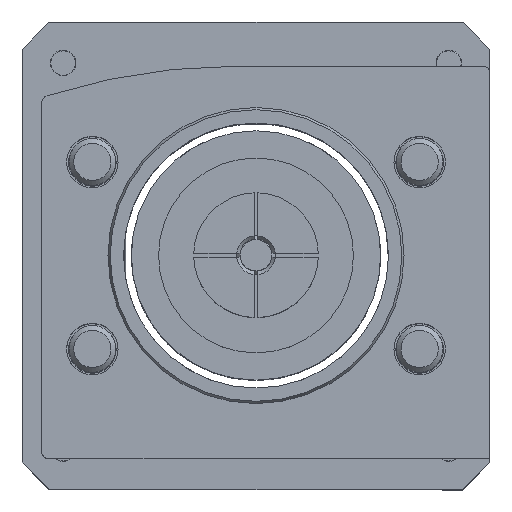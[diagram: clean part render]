
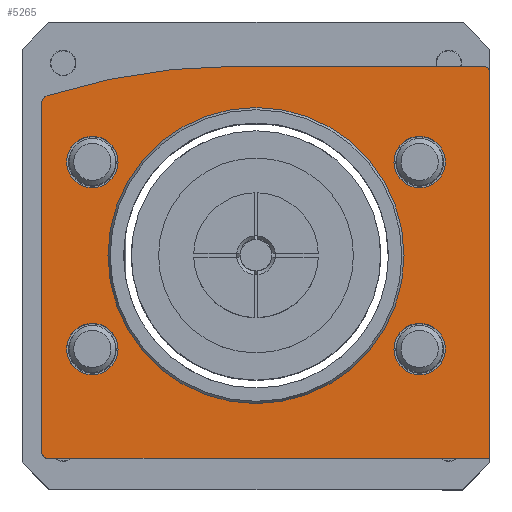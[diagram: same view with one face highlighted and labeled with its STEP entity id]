
A CAD part, top view. The second image highlights one B-rep face of the part: STEP entity #5265.
In plain terms, the highlighted planar face has unit normal (0, 0, 1).
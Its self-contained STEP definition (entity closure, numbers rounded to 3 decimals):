
#178=LINE('',#8017,#531);
#184=LINE('',#8037,#537);
#188=LINE('',#8049,#541);
#192=LINE('',#8061,#545);
#531=VECTOR('',#6315,44.766);
#537=VECTOR('',#6335,31.7);
#541=VECTOR('',#6347,49.3);
#545=VECTOR('',#6359,56.5);
#891=PLANE('',#5625);
#1109=FACE_BOUND('',#1593,.T.);
#1110=FACE_BOUND('',#1594,.T.);
#1111=FACE_BOUND('',#1595,.T.);
#1112=FACE_BOUND('',#1596,.T.);
#1113=FACE_BOUND('',#1597,.T.);
#1251=FACE_OUTER_BOUND('',#1592,.T.);
#1592=EDGE_LOOP('',(#3696,#3697,#3698,#3699,#3700,#3701,#3702,#3703,#3704));
#1593=EDGE_LOOP('',(#3705));
#1594=EDGE_LOOP('',(#3706));
#1595=EDGE_LOOP('',(#3707));
#1596=EDGE_LOOP('',(#3708));
#1597=EDGE_LOOP('',(#3709));
#2018=CIRCLE('',#5580,3.3);
#2020=CIRCLE('',#5583,3.3);
#2022=CIRCLE('',#5586,3.3);
#2024=CIRCLE('',#5589,3.3);
#2028=CIRCLE('',#5595,19.);
#2033=CIRCLE('',#5607,1.);
#2035=CIRCLE('',#5610,80.);
#2037=CIRCLE('',#5614,0.8);
#2039=CIRCLE('',#5618,0.2);
#2041=CIRCLE('',#5622,0.8);
#2349=VERTEX_POINT('',#7974);
#2351=VERTEX_POINT('',#7979);
#2353=VERTEX_POINT('',#7984);
#2355=VERTEX_POINT('',#7989);
#2359=VERTEX_POINT('',#7999);
#2364=VERTEX_POINT('',#8015);
#2365=VERTEX_POINT('',#8016);
#2368=VERTEX_POINT('',#8024);
#2370=VERTEX_POINT('',#8030);
#2372=VERTEX_POINT('',#8036);
#2374=VERTEX_POINT('',#8042);
#2376=VERTEX_POINT('',#8048);
#2378=VERTEX_POINT('',#8054);
#2380=VERTEX_POINT('',#8060);
#2871=EDGE_CURVE('',#2349,#2349,#2018,.T.);
#2873=EDGE_CURVE('',#2351,#2351,#2020,.T.);
#2875=EDGE_CURVE('',#2353,#2353,#2022,.T.);
#2877=EDGE_CURVE('',#2355,#2355,#2024,.T.);
#2881=EDGE_CURVE('',#2359,#2359,#2028,.T.);
#2886=EDGE_CURVE('',#2364,#2365,#178,.T.);
#2890=EDGE_CURVE('',#2365,#2368,#2033,.T.);
#2893=EDGE_CURVE('',#2368,#2370,#2035,.T.);
#2896=EDGE_CURVE('',#2370,#2372,#184,.T.);
#2899=EDGE_CURVE('',#2372,#2374,#2037,.T.);
#2902=EDGE_CURVE('',#2374,#2376,#188,.T.);
#2905=EDGE_CURVE('',#2376,#2378,#2039,.T.);
#2908=EDGE_CURVE('',#2378,#2380,#192,.T.);
#2911=EDGE_CURVE('',#2380,#2364,#2041,.T.);
#3696=ORIENTED_EDGE('',*,*,#2886,.F.);
#3697=ORIENTED_EDGE('',*,*,#2911,.F.);
#3698=ORIENTED_EDGE('',*,*,#2908,.F.);
#3699=ORIENTED_EDGE('',*,*,#2905,.F.);
#3700=ORIENTED_EDGE('',*,*,#2902,.F.);
#3701=ORIENTED_EDGE('',*,*,#2899,.F.);
#3702=ORIENTED_EDGE('',*,*,#2896,.F.);
#3703=ORIENTED_EDGE('',*,*,#2893,.F.);
#3704=ORIENTED_EDGE('',*,*,#2890,.F.);
#3705=ORIENTED_EDGE('',*,*,#2871,.T.);
#3706=ORIENTED_EDGE('',*,*,#2873,.T.);
#3707=ORIENTED_EDGE('',*,*,#2875,.T.);
#3708=ORIENTED_EDGE('',*,*,#2877,.T.);
#3709=ORIENTED_EDGE('',*,*,#2881,.T.);
#5265=ADVANCED_FACE('',(#1251,#1109,#1110,#1111,#1112,#1113),#891,.T.);
#5580=AXIS2_PLACEMENT_3D('',#7975,#6263,#6264);
#5583=AXIS2_PLACEMENT_3D('',#7980,#6269,#6270);
#5586=AXIS2_PLACEMENT_3D('',#7985,#6275,#6276);
#5589=AXIS2_PLACEMENT_3D('',#7990,#6281,#6282);
#5595=AXIS2_PLACEMENT_3D('',#8000,#6293,#6294);
#5607=AXIS2_PLACEMENT_3D('',#8025,#6321,#6322);
#5610=AXIS2_PLACEMENT_3D('',#8031,#6328,#6329);
#5614=AXIS2_PLACEMENT_3D('',#8043,#6340,#6341);
#5618=AXIS2_PLACEMENT_3D('',#8055,#6352,#6353);
#5622=AXIS2_PLACEMENT_3D('',#8066,#6364,#6365);
#5625=AXIS2_PLACEMENT_3D('',#8069,#6370,#6371);
#6263=DIRECTION('center_axis',(0.,0.,-1.));
#6264=DIRECTION('ref_axis',(-1.,0.,0.));
#6269=DIRECTION('center_axis',(0.,0.,-1.));
#6270=DIRECTION('ref_axis',(-1.,0.,0.));
#6275=DIRECTION('center_axis',(0.,0.,-1.));
#6276=DIRECTION('ref_axis',(-1.,0.,0.));
#6281=DIRECTION('center_axis',(0.,0.,-1.));
#6282=DIRECTION('ref_axis',(-1.,0.,0.));
#6293=DIRECTION('center_axis',(0.,0.,-1.));
#6294=DIRECTION('ref_axis',(0.,1.,0.));
#6315=DIRECTION('',(0.,1.,0.));
#6321=DIRECTION('center_axis',(0.,0.,-1.));
#6322=DIRECTION('ref_axis',(-0.304,0.953,0.));
#6328=DIRECTION('center_axis',(0.,0.,-1.));
#6329=DIRECTION('ref_axis',(0.,1.,0.));
#6335=DIRECTION('',(1.,0.,0.));
#6340=DIRECTION('center_axis',(0.,0.,-1.));
#6341=DIRECTION('ref_axis',(1.,0.,0.));
#6347=DIRECTION('',(0.,-1.,0.));
#6352=DIRECTION('center_axis',(0.,0.,-1.));
#6353=DIRECTION('ref_axis',(0.,-1.,0.));
#6359=DIRECTION('',(-1.,0.,0.));
#6364=DIRECTION('center_axis',(0.,0.,-1.));
#6365=DIRECTION('ref_axis',(-1.,0.,0.));
#6370=DIRECTION('center_axis',(0.,0.,1.));
#6371=DIRECTION('ref_axis',(1.,0.,0.));
#7974=CARTESIAN_POINT('',(-24.3,12.,16.5));
#7975=CARTESIAN_POINT('Origin',(-21.,12.,16.5));
#7979=CARTESIAN_POINT('',(-24.3,-12.,16.5));
#7980=CARTESIAN_POINT('Origin',(-21.,-12.,16.5));
#7984=CARTESIAN_POINT('',(17.7,-12.,16.5));
#7985=CARTESIAN_POINT('Origin',(21.,-12.,16.5));
#7989=CARTESIAN_POINT('',(17.7,12.,16.5));
#7990=CARTESIAN_POINT('Origin',(21.,12.,16.5));
#7999=CARTESIAN_POINT('',(0.,-19.,16.5));
#8000=CARTESIAN_POINT('Origin',(0.,0.,16.5));
#8015=CARTESIAN_POINT('',(-27.5,-25.2,16.5));
#8016=CARTESIAN_POINT('',(-27.5,19.566,16.5));
#8017=CARTESIAN_POINT('',(-27.5,19.566,16.5));
#8024=CARTESIAN_POINT('',(-26.804,20.519,16.5));
#8025=CARTESIAN_POINT('Origin',(-26.5,19.566,16.5));
#8030=CARTESIAN_POINT('',(-2.5,24.3,16.5));
#8031=CARTESIAN_POINT('Origin',(-2.5,-55.7,16.5));
#8036=CARTESIAN_POINT('',(29.2,24.3,16.5));
#8037=CARTESIAN_POINT('',(29.2,24.3,16.5));
#8042=CARTESIAN_POINT('',(30.,23.5,16.5));
#8043=CARTESIAN_POINT('Origin',(29.2,23.5,16.5));
#8048=CARTESIAN_POINT('',(30.,-25.8,16.5));
#8049=CARTESIAN_POINT('',(30.,-25.8,16.5));
#8054=CARTESIAN_POINT('',(29.8,-26.,16.5));
#8055=CARTESIAN_POINT('Origin',(29.8,-25.8,16.5));
#8060=CARTESIAN_POINT('',(-26.7,-26.,16.5));
#8061=CARTESIAN_POINT('',(-26.7,-26.,16.5));
#8066=CARTESIAN_POINT('Origin',(-26.7,-25.2,16.5));
#8069=CARTESIAN_POINT('Origin',(1.767,-1.417,16.5));
